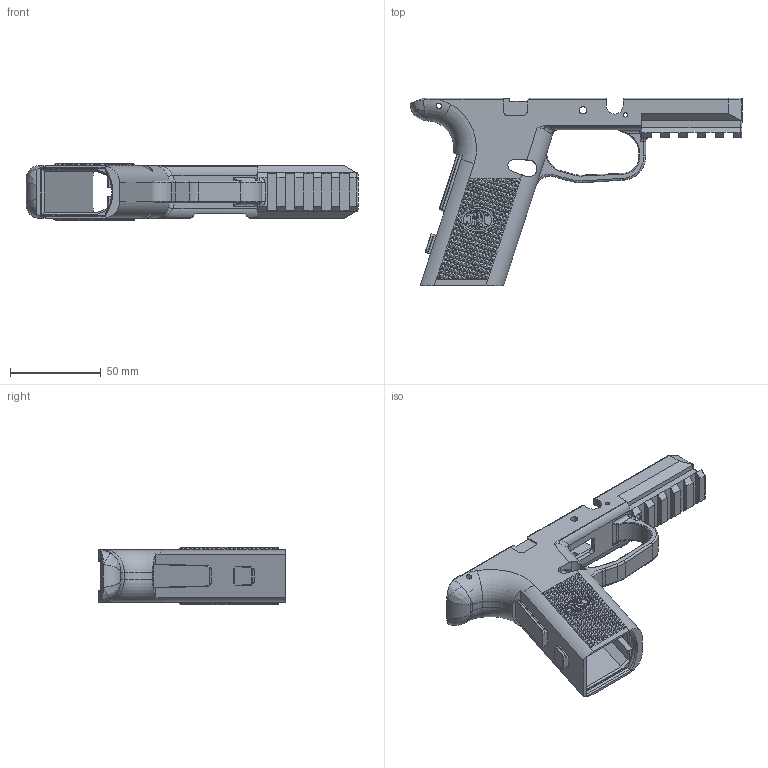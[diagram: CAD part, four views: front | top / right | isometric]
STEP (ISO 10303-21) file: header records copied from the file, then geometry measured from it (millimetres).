
FILE_DESCRIPTION(/* description */ (''),/* implementation_level */ '2;1');
FILE_NAME(/* name */ 'C:/Users/Bob/Desktop/FNS-940_Texture_2 v3.step',/* time_stamp */ '2021-06-04T19:44:07-07:00',/* author */ (''),/* organization */ (''),/* preprocessor_version */ 'ST-DEVELOPER v18.1',/* originating_system */ 'Autodesk Translation Framework v10.9.0.1377',/* authorisation */ '');
FILE_SCHEMA (('AUTOMOTIVE_DESIGN { 1 0 10303 214 3 1 1 }'));
Products named in the file (5): FNS-940_Texture_2; Main Frame; Compact Size Grip; Standard Size Grip; Standard Size Grip (Stopgap)
Assembly tree (4 placements, depth 2):
  FNS-940_Texture_2
    Main Frame
    Compact Size Grip
    Standard Size Grip
    Standard Size Grip (Stopgap)
Bounding box: 183.1 x 103.6 x 31.54 mm (x, y, z)
Volume: 81551.6 mm3; surface area: 47946.7 mm2
Topology: 1 solids, 1 shells, 2884 faces, 6146 edges, 3269 vertices
Faces by surface type: plane 2597, bspline 135, cylinder 119, torus 27, cone 6
Full cylindrical faces by diameter (mm): 0.612 x2, 2.5 x2, 3 x2, 4.1 x2
Entity records: 88637 total; most frequent: CARTESIAN_POINT 29068, ORIENTED_EDGE 12288, DIRECTION 11552, EDGE_CURVE 6144, LINE 5410, VECTOR 5410, VERTEX_POINT 3269, AXIS2_PLACEMENT_3D 3071
